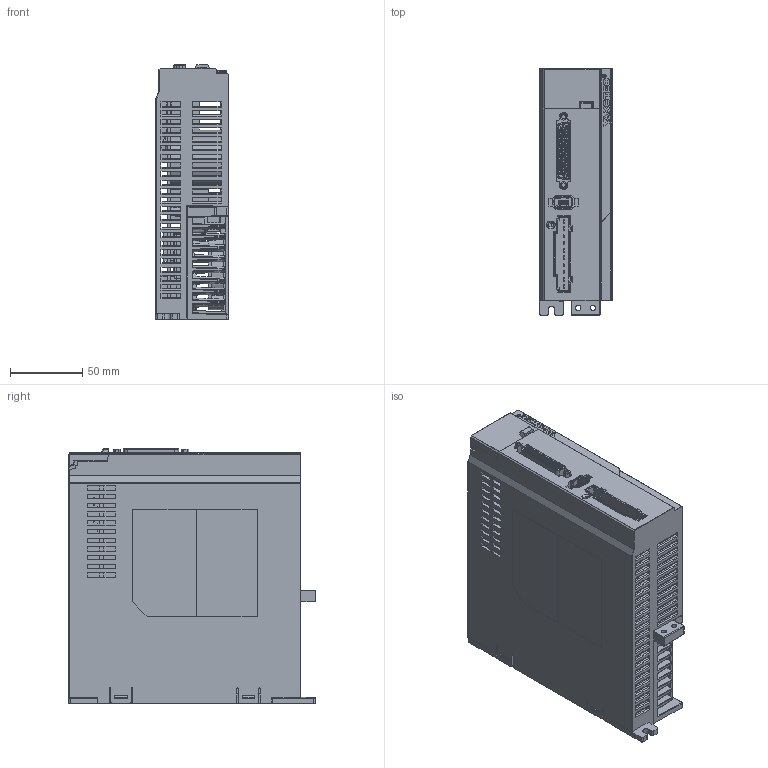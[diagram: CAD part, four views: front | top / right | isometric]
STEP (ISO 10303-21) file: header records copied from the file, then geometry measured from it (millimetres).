
FILE_DESCRIPTION((''),'2;1');
FILE_NAME('AS3-10BAI','2020-06-23T',('Administrator'),(''),'PRO/ENGINEER BY PARAMETRIC TECHNOLOGY CORPORATION, 2010280','PRO/ENGINEER BY PARAMETRIC TECHNOLOGY CORPORATION, 2010280','');
FILE_SCHEMA(('CONFIG_CONTROL_DESIGN','SHAPE_APPEARANCE_LAYERS_GROUPS'));
Products named in the file (1): AS3-10BAI
Bounding box: 50.2 x 170 x 175.67 mm (x, y, z)
Volume: 514005 mm3; surface area: 333104.3 mm2
Topology: 1 solids, 2 shells, 4582 faces, 12893 edges, 8384 vertices
Faces by surface type: plane 3093, cylinder 920, cone 215, bspline 122, torus 115, extrusion 99, sphere 18
Entity records: 184490 total; most frequent: CARTESIAN_POINT 37465, ORIENTED_EDGE 25776, DIRECTION 22520, EDGE_CURVE 12888, VECTOR 9824, LINE 9725, VERTEX_POINT 8384, AXIS2_PLACEMENT_3D 6348
